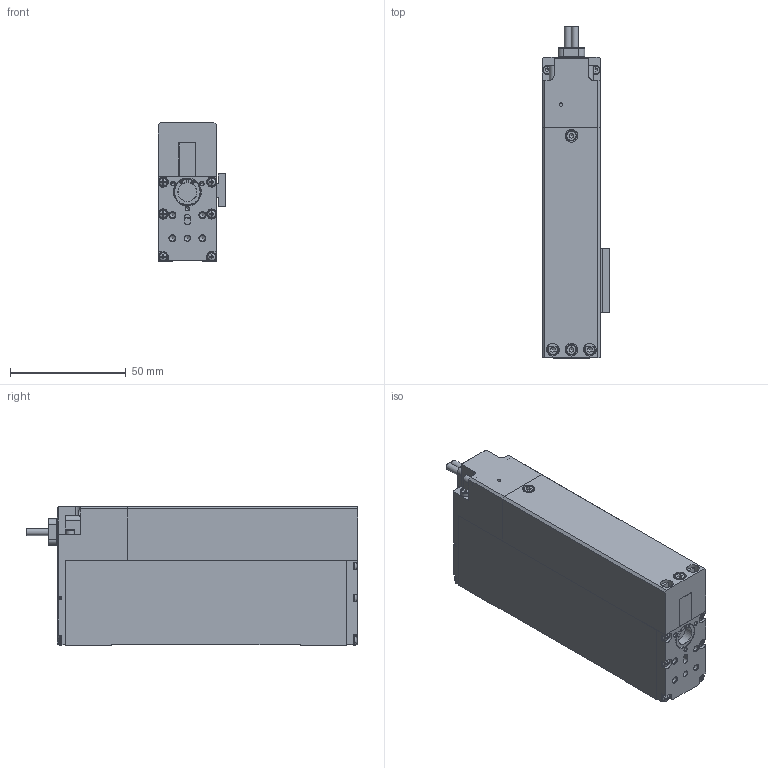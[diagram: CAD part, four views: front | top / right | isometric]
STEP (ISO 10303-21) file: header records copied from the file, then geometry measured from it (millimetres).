
FILE_DESCRIPTION((''),'2;1');
FILE_NAME('D:\SMAC-CAD\LCA\LCA25-3D-WEB\LCS25-025-1_1.stp','2011-11-07T15:19:49',('ToanVu'),(''),'Autodesk Inventor 2008','Autodesk Inventor 2008','');
FILE_SCHEMA(('AUTOMOTIVE_DESIGN { 1 0 10303 214 1 1 1 1 }'));
Length unit declared in the file: millimetre
Products named in the file (12): LCS25-025-1_1; CABLE-G_B; HSG-CS25-15-1; 11604-01_DX; MAGHSG25-25-1; 18553-01_AX; COVER25-STD; BS EN ISO 7045 H - Metric M2 x 3 - 4.8 - H;  Part 1 Hexagon Socket Head Cap Screw - Metric M2.5 x 4;  Part 1 Hexagon Socket Head Cap Screw - Metric M2 x 3; 220112-02_A1; Broached Socket Head Cap Screw - Metric M2x0.4 x 3
Assembly tree (28 placements, depth 2):
  LCS25-025-1_1
    CABLE-G_B
    HSG-CS25-15-1
    11604-01_DX
    MAGHSG25-25-1
    18553-01_AX
    COVER25-STD
    BS EN ISO 7045 H - Metric M2 x 3 - 4.8 - H  x10
     Part 1 Hexagon Socket Head Cap Screw - Metric M2.5 x 4  x4
     Part 1 Hexagon Socket Head Cap Screw - Metric M2 x 3  x4
    220112-02_A1
    Broached Socket Head Cap Screw - Metric M2x0.4 x 3  x3
Bounding box: 29 x 143.5 x 60 mm (x, y, z)
Volume: 190311.6 mm3; surface area: 48033.1 mm2
Topology: 28 solids, 28 shells, 869 faces, 2148 edges, 1384 vertices
Faces by surface type: plane 384, bspline 172, cone 150, cylinder 84, torus 69, sphere 10
Full cylindrical faces by diameter (mm): 1.783 x10, 2 x17, 2.5 x4, 3 x2, 3.8 x7, 4.5 x4, 11.1 x1, 12 x1, 14 x1
Entity records: 15740 total; most frequent: CARTESIAN_POINT 5175, DIRECTION 1995, ORIENTED_EDGE 1958, EDGE_CURVE 979, EDGE_LOOP 738, AXIS2_PLACEMENT_3D 715, VERTEX_POINT 710, VECTOR 565
